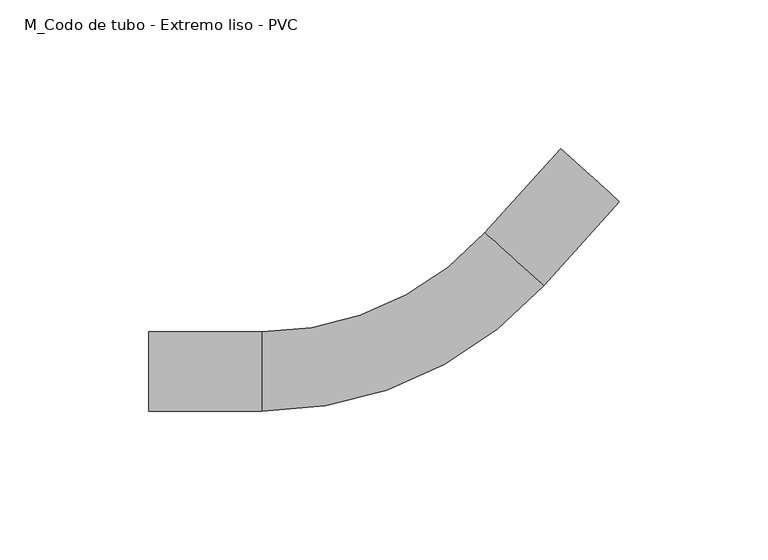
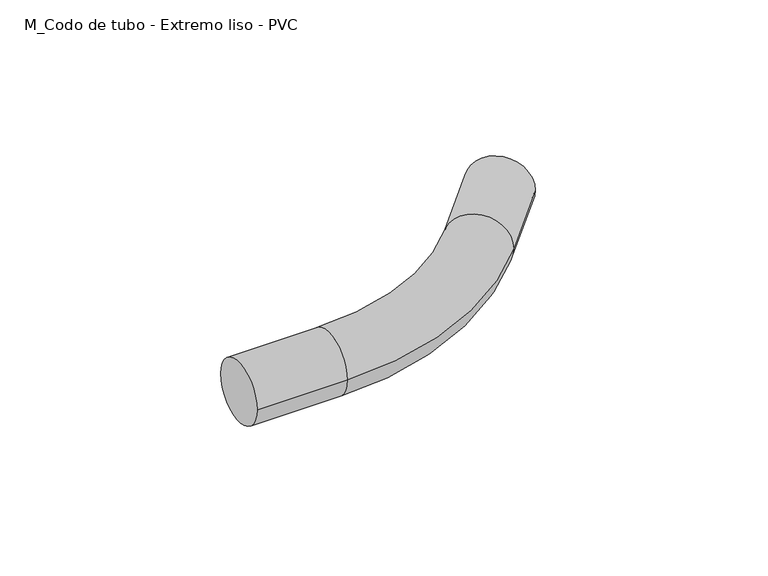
"""IFC4 building model written with IfcOpenShell, lengths in millimetres: cable carrier fitting geometry, M_Codo de tubo - Extremo liso - PVC : CODO ILUMINACION."""

from ifc_helpers import new_model, si_unit, point, frame, origin, place, context, project, spatial, circle_curve, ellipse_curve, trimmed, source, transform, mapped, element, save
from ifc_brep_helpers import plane_surface, cylinder_surface, revolved_surface, advanced_brep


def m_codo_de_tubo_extremo_liso_pvc_8ae5d500(model_context):
    return source(origin(), model_context, "Body", "AdvancedBrep", [
        advanced_brep(
        [(-88.9896387, -13.335, 0.0), (-88.9896387, 13.335, 0.0), (-50.8896387, -13.335, 0.0), (-50.8896387, 13.335, 0.0), (24.1419786, 46.7412283, 0.0), (43.9616511, 28.8955151, 0.0), (69.4555272, 57.2093329, 0.0), (49.6358547, 75.0550462, 0.0)],
        [
            (0, 1, circle_curve(frame((-88.9896387, 0.0, 0.0), z_axis=(-1.0, 0.0, 0.0), x_axis=(0.0, 1.0, 0.0)), 13.335)),
            (1, 0, circle_curve(frame((-88.9896387, 0.0, 0.0), z_axis=(-1.0, 0.0, 0.0), x_axis=(0.0, 1.0, 0.0)), 13.335)),
            (0, 2),
            (2, 3, circle_curve(frame((-50.8896387, 0.0, 0.0), z_axis=(-1.0, 0.0, 0.0), x_axis=(0.0, 1.0, 0.0)), 13.335)),
            (3, 1),
            (3, 2, circle_curve(frame((-50.8896387, 0.0, 0.0), z_axis=(-1.0, 0.0, 0.0), x_axis=(0.0, 1.0, 0.0)), 13.335)),
            (4, 3, circle_curve(frame((-50.8896387, 114.3, 0.0), z_axis=(0.0, 0.0, -1.0), x_axis=(0.0, -1.0, 0.0)), 100.965)),
            (2, 5, circle_curve(frame((-50.8896387, 114.3, 0.0), z_axis=(0.0, 0.0, 1.0), x_axis=(0.0, -1.0, 0.0)), 127.635)),
            (5, 4, circle_curve(frame((34.0518148, 37.8183717, 0.0), z_axis=(-0.6691306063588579, -0.7431448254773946, 0.0), x_axis=(-0.7431448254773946, 0.6691306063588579, 0.0)), 13.335)),
            (4, 5, circle_curve(frame((34.0518148, 37.8183717, 0.0), z_axis=(-0.6691306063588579, -0.7431448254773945, 0.0), x_axis=(-0.7431448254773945, 0.6691306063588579, 0.0)), 13.335)),
            (6, 7, circle_curve(frame((59.5456909, 66.1321895, 0.0), z_axis=(0.6691306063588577, 0.7431448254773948, 0.0), x_axis=(-0.7431448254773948, 0.6691306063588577, 0.0)), 13.335)),
            (7, 6, circle_curve(frame((59.5456909, 66.1321895, 0.0), z_axis=(0.6691306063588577, 0.7431448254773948, 0.0), x_axis=(-0.7431448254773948, 0.6691306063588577, 0.0)), 13.335)),
            (5, 6),
            (7, 4),
        ],
        [
            plane_surface(frame((-88.9896387, 0.0, 0.0), z_axis=(-1.0, 0.0, 0.0), x_axis=(0.0, 0.0, 1.0))),
            cylinder_surface(frame((-88.9896387, 0.0, 0.0), z_axis=(-1.0, 0.0, 0.0), x_axis=(0.0, 1.0, 0.0)), 13.335),
            revolved_surface(trimmed(ellipse_curve(frame((-50.8896387, 0.0, 0.0), z_axis=(-1.0, 0.0, 0.0), x_axis=(0.0, 1.0, 0.0)), 13.335, 13.335), [point((-50.8896387, -13.335, 0.0))], [point((-50.8896387, 13.335, 0.0))], True, "CARTESIAN"), (-50.8896387, 114.3, 0.0), (0.0, 0.0, 1.0)),
            revolved_surface(trimmed(ellipse_curve(frame((-50.8896387, 0.0, 0.0), z_axis=(-1.0, 0.0, 0.0), x_axis=(0.0, 1.0, 0.0)), 13.335, 13.335), [point((-50.8896387, 13.335, 0.0))], [point((-50.8896387, -13.335, 0.0))], True, "CARTESIAN"), (-50.8896387, 114.3, 0.0), (0.0, 0.0, 1.0)),
            plane_surface(frame((59.5456909, 66.1321895, 0.0), z_axis=(0.6691306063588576, 0.7431448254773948, 0.0), x_axis=(0.0, 0.0, 1.0))),
            cylinder_surface(frame((34.0518148, 37.8183717, 0.0), z_axis=(-0.6691306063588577, -0.7431448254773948, 0.0), x_axis=(-0.7431448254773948, 0.6691306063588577, 0.0)), 13.335),
        ],
        [
            (0, [[1, 2]]),
            (1, [[-1, 3, 4, 5]]),
            (1, [[-2, -5, 6, -3]]),
            (2, [[7, -4, 8, 9]]),
            (3, [[-8, -6, -7, 10]]),
            (4, [[11, 12]]),
            (5, [[-9, 13, -12, 14]]),
            (5, [[-10, -14, -11, -13]]),
        ],
    ),
    ])


if __name__ == "__main__":
    model = new_model("IFC4")
    model_context = context("Model", 3, world=origin())
    ifc_project = project(units=[si_unit("LENGTHUNIT", "METRE", prefix="MILLI")], contexts=[model_context])
    site = spatial("IfcSite", under=ifc_project)
    building = spatial("IfcBuilding", under=site)
    placement = place(None, origin())
    m_codo_de_tubo_extremo_liso_pvc_shape = m_codo_de_tubo_extremo_liso_pvc_8ae5d500(model_context)
    element("IfcCableCarrierFitting", 1, ObjectType="M_Codo de tubo - Extremo liso - PVC : CODO ILUMINACION", at=placement, inside=building, context=model_context, shape_type="MappedRepresentation", body=[
        mapped(m_codo_de_tubo_extremo_liso_pvc_shape, transform((0.0, 0.0, 0.0), x_axis=(1.0, 0.0, 0.0), y_axis=(0.0, 1.0, 0.0), z_axis=(0.0, 0.0, 1.0))),
    ])
    save(model, "model.ifc")
